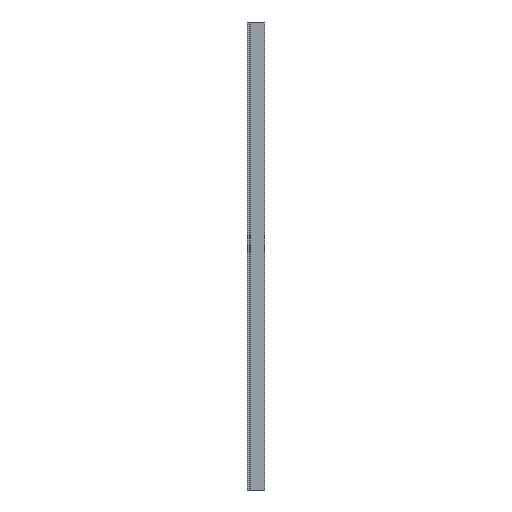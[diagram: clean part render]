
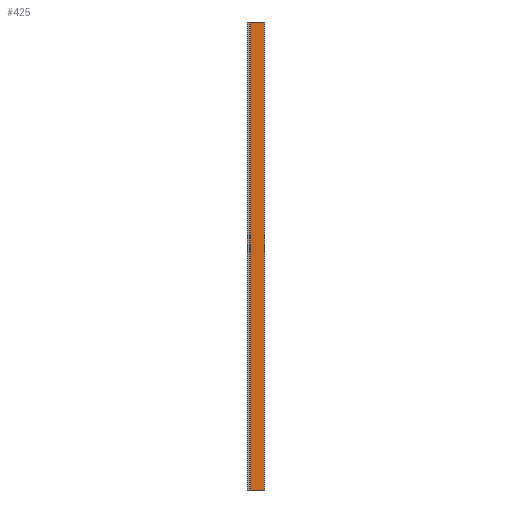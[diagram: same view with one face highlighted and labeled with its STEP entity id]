
A CAD part, left-side view. The second image highlights one B-rep face of the part: STEP entity #425.
In plain terms, the highlighted planar face has unit normal (-1, 0, 0).
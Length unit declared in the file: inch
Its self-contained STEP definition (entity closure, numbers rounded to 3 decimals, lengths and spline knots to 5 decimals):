
#27=PLANE('',#485);
#49=FACE_OUTER_BOUND('',#71,.T.);
#71=EDGE_LOOP('',(#373,#374,#375,#376));
#92=LINE('',#670,#136);
#97=LINE('',#685,#141);
#115=LINE('',#728,#159);
#116=LINE('',#730,#160);
#136=VECTOR('',#540,0.3937);
#141=VECTOR('',#555,0.3937);
#159=VECTOR('',#603,0.3937);
#160=VECTOR('',#606,0.3937);
#200=VERTEX_POINT('',#667);
#201=VERTEX_POINT('',#669);
#206=VERTEX_POINT('',#684);
#216=VERTEX_POINT('',#726);
#245=EDGE_CURVE('',#201,#200,#92,.T.);
#253=EDGE_CURVE('',#201,#206,#97,.T.);
#275=EDGE_CURVE('',#200,#216,#115,.T.);
#276=EDGE_CURVE('',#206,#216,#116,.T.);
#373=ORIENTED_EDGE('',*,*,#245,.T.);
#374=ORIENTED_EDGE('',*,*,#275,.T.);
#375=ORIENTED_EDGE('',*,*,#276,.F.);
#376=ORIENTED_EDGE('',*,*,#253,.F.);
#425=ADVANCED_FACE('',(#49),#27,.T.);
#485=AXIS2_PLACEMENT_3D('',#729,#604,#605);
#540=DIRECTION('',(0.,-1.,0.));
#555=DIRECTION('',(0.,0.,1.));
#603=DIRECTION('',(0.,0.,1.));
#604=DIRECTION('center_axis',(-1.,0.,0.));
#605=DIRECTION('ref_axis',(0.,-1.,0.));
#606=DIRECTION('',(0.,-1.,0.));
#667=CARTESIAN_POINT('',(-0.15,0.,0.));
#669=CARTESIAN_POINT('',(-0.15,3.702,0.));
#670=CARTESIAN_POINT('',(-0.15,3.702,0.));
#684=CARTESIAN_POINT('',(-0.15,3.702,120.));
#685=CARTESIAN_POINT('',(-0.15,3.702,0.));
#726=CARTESIAN_POINT('',(-0.15,0.,120.));
#728=CARTESIAN_POINT('',(-0.15,0.,0.));
#729=CARTESIAN_POINT('Origin',(-0.15,3.702,0.));
#730=CARTESIAN_POINT('',(-0.15,3.702,120.));
